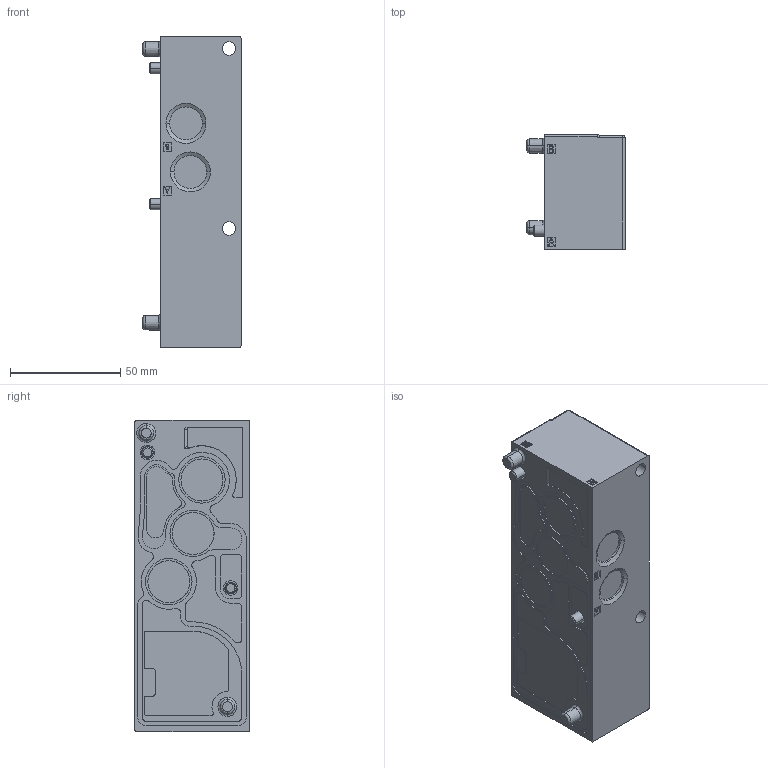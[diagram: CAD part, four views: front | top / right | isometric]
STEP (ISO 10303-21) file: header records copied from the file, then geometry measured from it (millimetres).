
FILE_DESCRIPTION (( 'STEP AP214' ), '1' );
FILE_NAME ('92A-000-C4J.STEP', '2019-08-09T13:11:24', ( '' ), ( '' ), 'SwSTEP 2.0', 'SolidWorks 2014', '' );
FILE_SCHEMA (( 'AUTOMOTIVE_DESIGN' ));
Length unit declared in the file: inch
Products named in the file (2): 92A-000-C4J; 92-BASE-C4J
Assembly tree (1 placements, depth 2):
  92A-000-C4J
    92-BASE-C4J
Bounding box: 44.5 x 52 x 141 mm (x, y, z)
Volume: 259466 mm3; surface area: 35692.7 mm2
Topology: 4 solids, 4 shells, 676 faces, 1744 edges, 1152 vertices
Faces by surface type: plane 391, cylinder 163, bspline 63, cone 59
Entity records: 32176 total; most frequent: CARTESIAN_POINT 6832, ORIENTED_EDGE 3484, DIRECTION 3271, EDGE_CURVE 1742, VECTOR 1173, LINE 1173, VERTEX_POINT 1152, AXIS2_PLACEMENT_3D 1049
